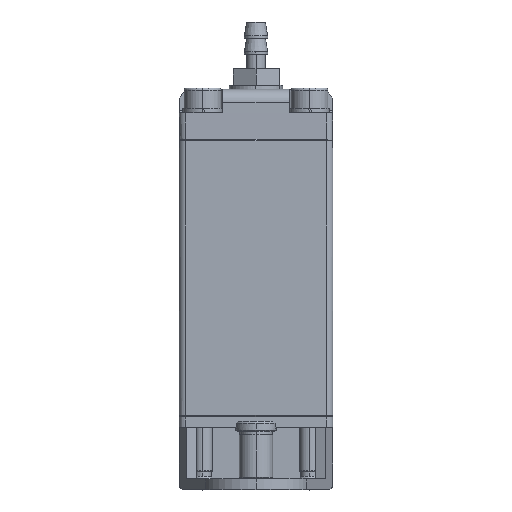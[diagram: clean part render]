
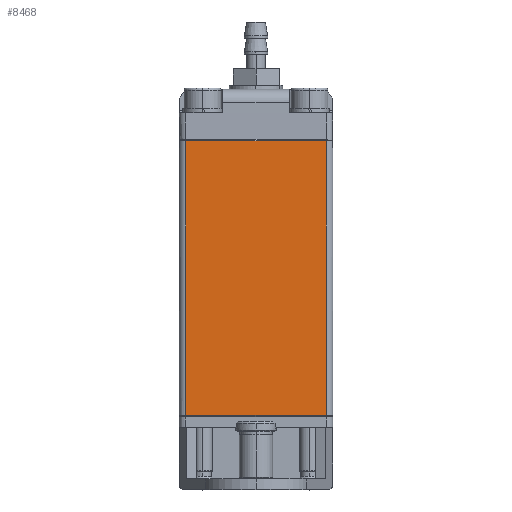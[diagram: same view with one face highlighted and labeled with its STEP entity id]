
A CAD part, top view. The second image highlights one B-rep face of the part: STEP entity #8468.
In plain terms, the highlighted planar face has unit normal (0, 0, 1).
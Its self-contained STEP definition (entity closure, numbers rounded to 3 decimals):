
#314 = CARTESIAN_POINT ( 'NONE',  ( 10.5, 0.2, 15.6 ) ) ;
#481 = DIRECTION ( 'NONE',  ( 1., 0., 0. ) ) ;
#525 = CARTESIAN_POINT ( 'NONE',  ( 10.5, 20.75, 15.6 ) ) ;
#602 = DIRECTION ( 'NONE',  ( 0., 0., 1. ) ) ;
#2926 = FACE_OUTER_BOUND ( 'NONE', #22667, .T. ) ;
#3016 = LINE ( 'NONE', #3872, #8712 ) ;
#3739 = CARTESIAN_POINT ( 'NONE',  ( 0., 41.3, 15.6 ) ) ;
#3798 = ORIENTED_EDGE ( 'NONE', *, *, #4168, .T. ) ;
#3872 = CARTESIAN_POINT ( 'NONE',  ( 0., 0.2, 15.6 ) ) ;
#4168 = EDGE_CURVE ( 'NONE', #9367, #7137, #26221, .T. ) ;
#4638 = DIRECTION ( 'NONE',  ( -1., 0., 0. ) ) ;
#6056 = EDGE_CURVE ( 'NONE', #7137, #22477, #24345, .T. ) ;
#7137 = VERTEX_POINT ( 'NONE', #18958 ) ;
#7323 = CARTESIAN_POINT ( 'NONE',  ( -12.6, -3.91, 15.6 ) ) ;
#8468 = ADVANCED_FACE ( 'NONE', ( #2926 ), #30668, .T. ) ;
#8712 = VECTOR ( 'NONE', #22988, 1000. ) ;
#8803 = LINE ( 'NONE', #525, #26141 ) ;
#8993 = CARTESIAN_POINT ( 'NONE',  ( 10.5, 41.3, 15.6 ) ) ;
#9367 = VERTEX_POINT ( 'NONE', #8993 ) ;
#9480 = ORIENTED_EDGE ( 'NONE', *, *, #23665, .F. ) ;
#10342 = DIRECTION ( 'NONE',  ( 0., -1., 0. ) ) ;
#10371 = CARTESIAN_POINT ( 'NONE',  ( -10.5, 20.75, 15.6 ) ) ;
#10844 = AXIS2_PLACEMENT_3D ( 'NONE', #7323, #602, #481 ) ;
#15150 = DIRECTION ( 'NONE',  ( 0., -1., 0. ) ) ;
#16213 = ORIENTED_EDGE ( 'NONE', *, *, #22766, .T. ) ;
#18958 = CARTESIAN_POINT ( 'NONE',  ( -10.5, 41.3, 15.6 ) ) ;
#19646 = ORIENTED_EDGE ( 'NONE', *, *, #6056, .T. ) ;
#20835 = VECTOR ( 'NONE', #4638, 1000. ) ;
#20904 = VERTEX_POINT ( 'NONE', #314 ) ;
#22477 = VERTEX_POINT ( 'NONE', #25533 ) ;
#22667 = EDGE_LOOP ( 'NONE', ( #16213, #9480, #3798, #19646 ) ) ;
#22766 = EDGE_CURVE ( 'NONE', #22477, #20904, #3016, .T. ) ;
#22988 = DIRECTION ( 'NONE',  ( 1., 0., 0. ) ) ;
#23665 = EDGE_CURVE ( 'NONE', #9367, #20904, #8803, .T. ) ;
#24345 = LINE ( 'NONE', #10371, #30605 ) ;
#25533 = CARTESIAN_POINT ( 'NONE',  ( -10.5, 0.2, 15.6 ) ) ;
#26141 = VECTOR ( 'NONE', #15150, 1000. ) ;
#26221 = LINE ( 'NONE', #3739, #20835 ) ;
#30605 = VECTOR ( 'NONE', #10342, 1000. ) ;
#30668 = PLANE ( 'NONE',  #10844 ) ;
